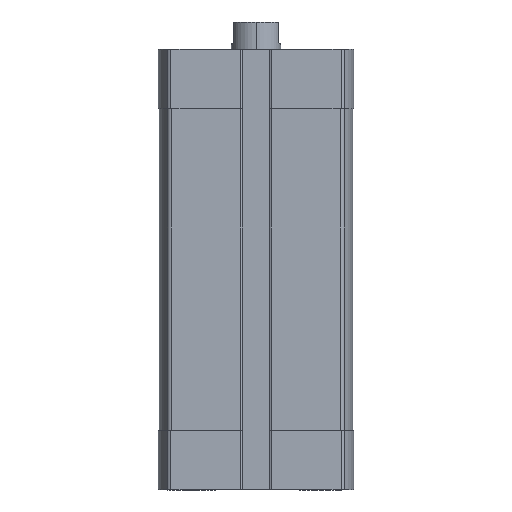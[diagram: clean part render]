
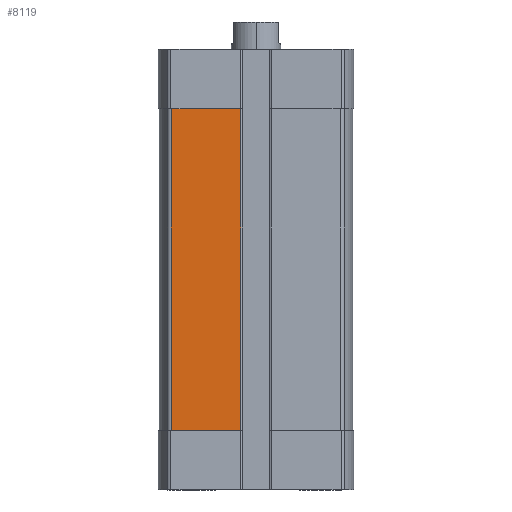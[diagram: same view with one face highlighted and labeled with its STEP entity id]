
A CAD part, left-side view. The second image highlights one B-rep face of the part: STEP entity #8119.
In plain terms, the highlighted planar face has unit normal (-1, 0, 0).
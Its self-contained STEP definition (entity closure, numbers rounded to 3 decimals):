
#184 = EDGE_CURVE ( 'NONE', #12763, #11726, #11575, .T. ) ;
#349 = DIRECTION ( 'NONE',  ( 0., -1., 0. ) ) ;
#398 = CARTESIAN_POINT ( 'NONE',  ( -19.5, 3.1, -77. ) ) ;
#497 = CARTESIAN_POINT ( 'NONE',  ( -19.5, 17.091, -77. ) ) ;
#1466 = CARTESIAN_POINT ( 'NONE',  ( -19.5, 17.091, -12. ) ) ;
#1606 = LINE ( 'NONE', #3522, #9068 ) ;
#1631 = CARTESIAN_POINT ( 'NONE',  ( -19.5, 3.1, -12. ) ) ;
#2001 = ORIENTED_EDGE ( 'NONE', *, *, #2284, .T. ) ;
#2145 = DIRECTION ( 'NONE',  ( 0., 0., -1. ) ) ;
#2284 = EDGE_CURVE ( 'NONE', #7078, #4026, #1606, .T. ) ;
#2320 = ORIENTED_EDGE ( 'NONE', *, *, #184, .T. ) ;
#2885 = EDGE_CURVE ( 'NONE', #4026, #12763, #11908, .T. ) ;
#3128 = EDGE_CURVE ( 'NONE', #11726, #7078, #9455, .T. ) ;
#3522 = CARTESIAN_POINT ( 'NONE',  ( -19.5, 17.091, -77. ) ) ;
#3882 = VECTOR ( 'NONE', #5581, 1000. ) ;
#3943 = ORIENTED_EDGE ( 'NONE', *, *, #2885, .T. ) ;
#4026 = VERTEX_POINT ( 'NONE', #12627 ) ;
#4736 = DIRECTION ( 'NONE',  ( -1., 0., 0. ) ) ;
#4951 = CARTESIAN_POINT ( 'NONE',  ( -19.5, 17.091, -77. ) ) ;
#5206 = CARTESIAN_POINT ( 'NONE',  ( -19.5, 17.091, -77. ) ) ;
#5581 = DIRECTION ( 'NONE',  ( 0., 0., 1. ) ) ;
#6756 = VECTOR ( 'NONE', #2145, 1000. ) ;
#7057 = FACE_OUTER_BOUND ( 'NONE', #7105, .T. ) ;
#7078 = VERTEX_POINT ( 'NONE', #4951 ) ;
#7105 = EDGE_LOOP ( 'NONE', ( #2001, #3943, #2320, #8243 ) ) ;
#7646 = PLANE ( 'NONE',  #13142 ) ;
#8119 = ADVANCED_FACE ( 'NONE', ( #7057 ), #7646, .T. ) ;
#8243 = ORIENTED_EDGE ( 'NONE', *, *, #3128, .T. ) ;
#9068 = VECTOR ( 'NONE', #349, 1000. ) ;
#9455 = LINE ( 'NONE', #5206, #6756 ) ;
#11288 = VECTOR ( 'NONE', #11902, 1000. ) ;
#11575 = LINE ( 'NONE', #12547, #11288 ) ;
#11726 = VERTEX_POINT ( 'NONE', #1466 ) ;
#11751 = DIRECTION ( 'NONE',  ( 0., 0., 1. ) ) ;
#11902 = DIRECTION ( 'NONE',  ( 0., 1., 0. ) ) ;
#11908 = LINE ( 'NONE', #398, #3882 ) ;
#12547 = CARTESIAN_POINT ( 'NONE',  ( -19.5, 0., -12. ) ) ;
#12627 = CARTESIAN_POINT ( 'NONE',  ( -19.5, 3.1, -77. ) ) ;
#12763 = VERTEX_POINT ( 'NONE', #1631 ) ;
#13142 = AXIS2_PLACEMENT_3D ( 'NONE', #497, #4736, #11751 ) ;
